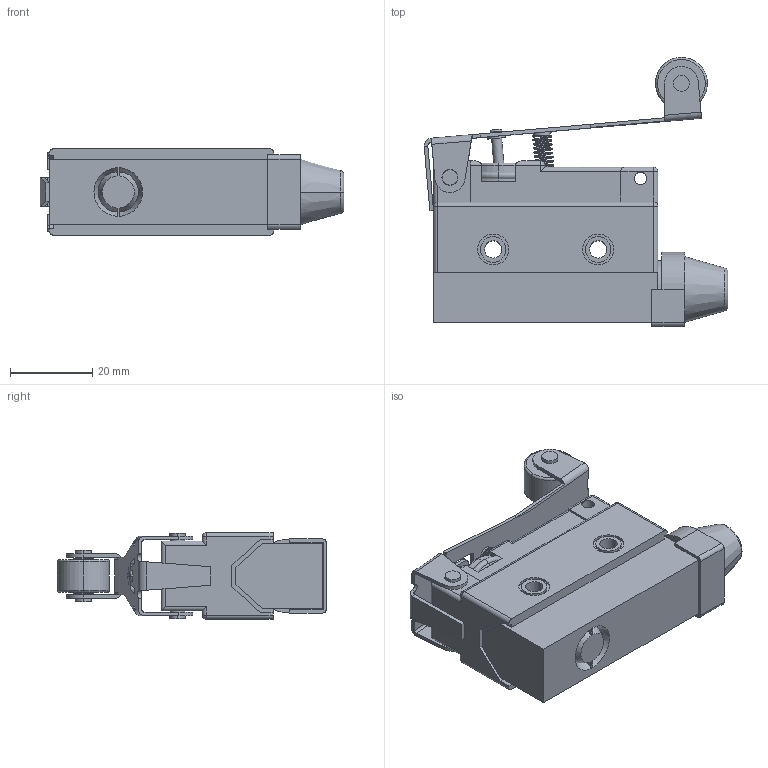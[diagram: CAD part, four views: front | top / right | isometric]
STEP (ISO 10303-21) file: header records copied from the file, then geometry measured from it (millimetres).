
FILE_DESCRIPTION (( 'STEP AP203' ), '1' );
FILE_NAME ('FM7121.STEP', '2018-03-23T13:17:38', ( '' ), ( '' ), 'SwSTEP 2.0', 'SolidWorks 2012', '' );
FILE_SCHEMA (( 'CONFIG_CONTROL_DESIGN' ));
Length unit declared in the file: millimetre
Products named in the file (1): FM7121
Bounding box: 73.76 x 65.37 x 21 mm (x, y, z)
Volume: 42346.2 mm3; surface area: 14007 mm2
Topology: 2 solids, 2 shells, 329 faces, 814 edges, 510 vertices
Faces by surface type: plane 145, cylinder 130, torus 30, cone 10, sphere 8, bspline 6
Entity records: 17156 total; most frequent: CARTESIAN_POINT 9186, DIRECTION 1709, ORIENTED_EDGE 1604, EDGE_CURVE 802, AXIS2_PLACEMENT_3D 633, VERTEX_POINT 510, VECTOR 443, LINE 443
